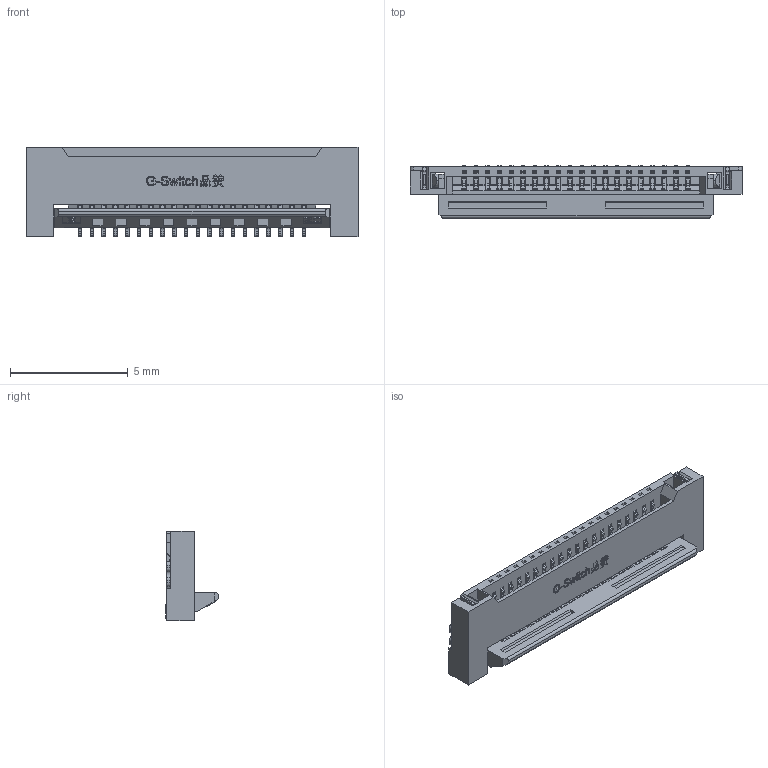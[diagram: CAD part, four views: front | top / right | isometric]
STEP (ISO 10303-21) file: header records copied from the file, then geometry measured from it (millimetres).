
FILE_DESCRIPTION (( 'STEP AP203' ), '1' );
FILE_NAME ('GT-F0516SR12-XXXXX01.STEP', '2024-03-08T02:20:23', ( '' ), ( '' ), 'SwSTEP 2.0', 'SolidWorks 2023', '' );
FILE_SCHEMA (( 'CONFIG_CONTROL_DESIGN' ));
Products named in the file (1): GT-F0516SR12-XXXXX01
Bounding box: 14.1 x 2.23 x 3.82 mm (x, y, z)
Volume: 43.8 mm3; surface area: 431.4 mm2
Topology: 1 solids, 1 shells, 3157 faces, 9785 edges, 6434 vertices
Faces by surface type: plane 2137, cylinder 943, bspline 77
Entity records: 112648 total; most frequent: CARTESIAN_POINT 24150, ORIENTED_EDGE 19570, DIRECTION 17503, EDGE_CURVE 9785, LINE 7585, VECTOR 7585, VERTEX_POINT 6434, AXIS2_PLACEMENT_3D 4959
